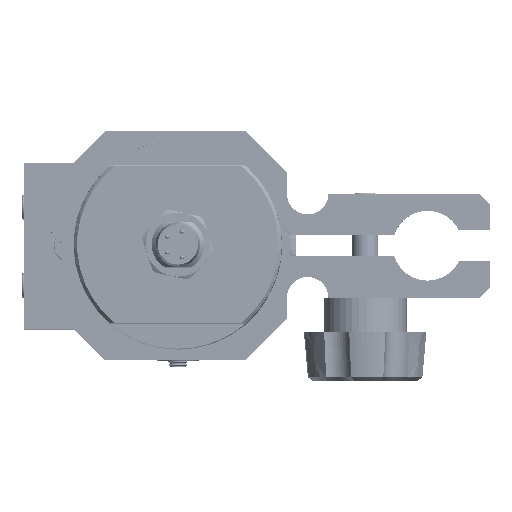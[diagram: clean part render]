
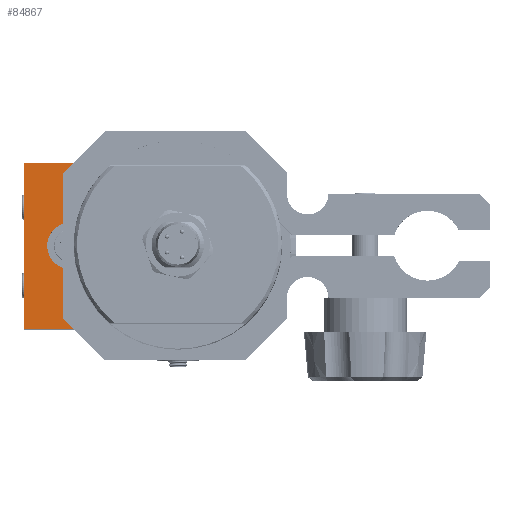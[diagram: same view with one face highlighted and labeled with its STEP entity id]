
A CAD part, top view. The second image highlights one B-rep face of the part: STEP entity #84867.
In plain terms, the highlighted planar face has unit normal (0, 0, 1).
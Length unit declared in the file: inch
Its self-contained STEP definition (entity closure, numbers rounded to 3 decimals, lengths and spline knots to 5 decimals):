
#3397 = VECTOR ( 'NONE', #116188, 39.37008 ) ;
#3599 = FACE_BOUND ( 'NONE', #13485, .T. ) ;
#6162 = VECTOR ( 'NONE', #127867, 39.37008 ) ;
#6739 = CARTESIAN_POINT ( 'NONE',  ( -0.9225, 0.5, 0.37775 ) ) ;
#13485 = EDGE_LOOP ( 'NONE', ( #92875, #109629 ) ) ;
#18321 = AXIS2_PLACEMENT_3D ( 'NONE', #154491, #49878, #153499 ) ;
#18739 = CARTESIAN_POINT ( 'NONE',  ( -0.9225, 0.5, 0.37775 ) ) ;
#26764 = CIRCLE ( 'NONE', #39383, 0.14 ) ;
#28640 = DIRECTION ( 'NONE',  ( 0., 1., 0. ) ) ;
#29787 = CARTESIAN_POINT ( 'NONE',  ( -0.785, 0., 0.37775 ) ) ;
#39383 = AXIS2_PLACEMENT_3D ( 'NONE', #148696, #192195, #118120 ) ;
#45650 = VERTEX_POINT ( 'NONE', #166112 ) ;
#49629 = CIRCLE ( 'NONE', #156792, 0.14 ) ;
#49878 = DIRECTION ( 'NONE',  ( 0., 0., -1. ) ) ;
#51134 = EDGE_CURVE ( 'NONE', #58820, #93930, #140822, .T. ) ;
#52210 = EDGE_CURVE ( 'NONE', #45650, #98603, #49629, .T. ) ;
#55941 = CARTESIAN_POINT ( 'NONE',  ( -0.645, 0., 0.37775 ) ) ;
#56218 = LINE ( 'NONE', #176620, #110392 ) ;
#58820 = VERTEX_POINT ( 'NONE', #18739 ) ;
#69620 = VERTEX_POINT ( 'NONE', #136056 ) ;
#70597 = LINE ( 'NONE', #114051, #6162 ) ;
#82399 = CARTESIAN_POINT ( 'NONE',  ( -0.485, 0.5, 0.37775 ) ) ;
#84867 = ADVANCED_FACE ( 'NONE', ( #3599, #95259 ), #185072, .F. ) ;
#92875 = ORIENTED_EDGE ( 'NONE', *, *, #96608, .F. ) ;
#93930 = VERTEX_POINT ( 'NONE', #82399 ) ;
#95259 = FACE_OUTER_BOUND ( 'NONE', #187331, .T. ) ;
#95544 = ORIENTED_EDGE ( 'NONE', *, *, #132006, .T. ) ;
#96608 = EDGE_CURVE ( 'NONE', #98603, #45650, #26764, .T. ) ;
#98603 = VERTEX_POINT ( 'NONE', #29787 ) ;
#99385 = DIRECTION ( 'NONE',  ( 0., 0., 1. ) ) ;
#104035 = EDGE_CURVE ( 'NONE', #69620, #58820, #70597, .T. ) ;
#109629 = ORIENTED_EDGE ( 'NONE', *, *, #52210, .F. ) ;
#110392 = VECTOR ( 'NONE', #28640, 39.37008 ) ;
#114051 = CARTESIAN_POINT ( 'NONE',  ( -0.9225, 0.5, 0.37775 ) ) ;
#114242 = CARTESIAN_POINT ( 'NONE',  ( -0.9225, -0.5, 0.37775 ) ) ;
#116139 = DIRECTION ( 'NONE',  ( -1., 0., 0. ) ) ;
#116188 = DIRECTION ( 'NONE',  ( 1., 0., 0. ) ) ;
#118120 = DIRECTION ( 'NONE',  ( -1., 0., 0. ) ) ;
#123812 = CARTESIAN_POINT ( 'NONE',  ( -0.485, -0.5, 0.37775 ) ) ;
#127832 = ORIENTED_EDGE ( 'NONE', *, *, #131511, .T. ) ;
#127867 = DIRECTION ( 'NONE',  ( 0., 1., 0. ) ) ;
#131511 = EDGE_CURVE ( 'NONE', #186584, #93930, #56218, .T. ) ;
#132006 = EDGE_CURVE ( 'NONE', #69620, #186584, #146741, .T. ) ;
#133290 = ORIENTED_EDGE ( 'NONE', *, *, #104035, .F. ) ;
#136056 = CARTESIAN_POINT ( 'NONE',  ( -0.9225, -0.5, 0.37775 ) ) ;
#140822 = LINE ( 'NONE', #6739, #140865 ) ;
#140865 = VECTOR ( 'NONE', #187212, 39.37008 ) ;
#144468 = ORIENTED_EDGE ( 'NONE', *, *, #51134, .F. ) ;
#146741 = LINE ( 'NONE', #114242, #3397 ) ;
#148696 = CARTESIAN_POINT ( 'NONE',  ( -0.645, 0., 0.37775 ) ) ;
#153499 = DIRECTION ( 'NONE',  ( 1., 0., 0. ) ) ;
#154491 = CARTESIAN_POINT ( 'NONE',  ( -0.9225, 0.5, 0.37775 ) ) ;
#156792 = AXIS2_PLACEMENT_3D ( 'NONE', #55941, #99385, #116139 ) ;
#166112 = CARTESIAN_POINT ( 'NONE',  ( -0.505, 0., 0.37775 ) ) ;
#176620 = CARTESIAN_POINT ( 'NONE',  ( -0.485, 0.5, 0.37775 ) ) ;
#185072 = PLANE ( 'NONE',  #18321 ) ;
#186584 = VERTEX_POINT ( 'NONE', #123812 ) ;
#187212 = DIRECTION ( 'NONE',  ( 1., 0., 0. ) ) ;
#187331 = EDGE_LOOP ( 'NONE', ( #127832, #144468, #133290, #95544 ) ) ;
#192195 = DIRECTION ( 'NONE',  ( 0., 0., 1. ) ) ;
